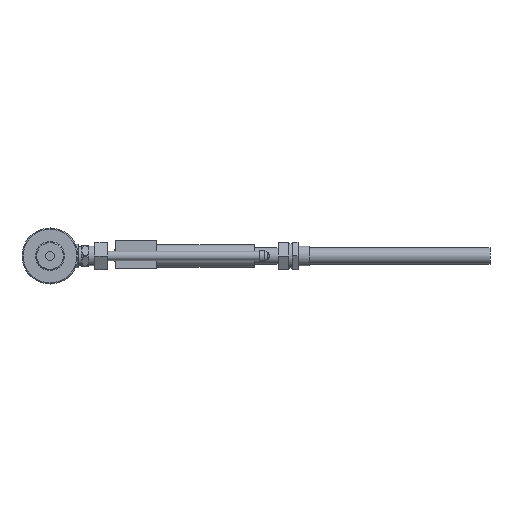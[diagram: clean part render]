
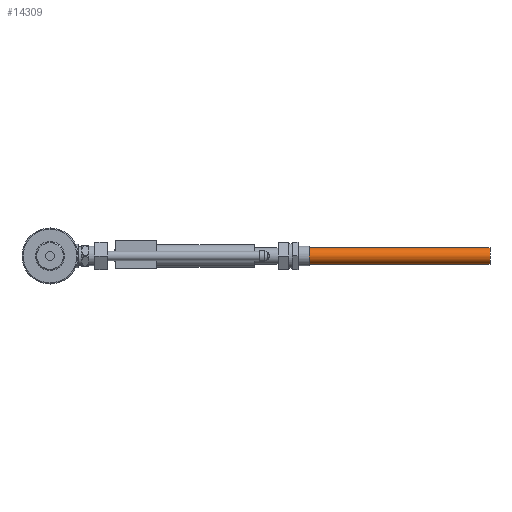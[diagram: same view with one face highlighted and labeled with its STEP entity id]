
A CAD part, left-side view. The second image highlights one B-rep face of the part: STEP entity #14309.
In plain terms, the highlighted cylindrical face has radius 14 mm (diameter 28 mm), a partial arc.
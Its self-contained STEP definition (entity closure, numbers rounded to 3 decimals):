
#7976 = VERTEX_POINT ( 'NONE', #10147 ) ;
#7977 = VERTEX_POINT ( 'NONE', #10146 ) ;
#7979 = EDGE_CURVE ( 'NONE', #7977, #7980, #10145, .T. ) ;
#7980 = VERTEX_POINT ( 'NONE', #10141 ) ;
#7983 = VERTEX_POINT ( 'NONE', #10135 ) ;
#7985 = EDGE_CURVE ( 'NONE', #7976, #7983, #10134, .T. ) ;
#8929 = DIRECTION ( 'NONE',  ( 0., 0., -1. ) ) ;
#8930 = DIRECTION ( 'NONE',  ( 0., -1., 0. ) ) ;
#8931 = CARTESIAN_POINT ( 'NONE',  ( 432.383, -391.1, 0. ) ) ;
#8932 = AXIS2_PLACEMENT_3D ( 'NONE', #8931, #8930, #8929 ) ;
#8933 = CIRCLE ( 'NONE', #8932, 14. ) ;
#8974 = DIRECTION ( 'NONE',  ( 0., 0., 1. ) ) ;
#8975 = DIRECTION ( 'NONE',  ( 0., 1., 0. ) ) ;
#8976 = CARTESIAN_POINT ( 'NONE',  ( 432.383, -279.438, 0. ) ) ;
#8977 = AXIS2_PLACEMENT_3D ( 'NONE', #8976, #8975, #8974 ) ;
#8979 = CYLINDRICAL_SURFACE ( 'NONE', #8977, 14. ) ;
#8980 = FACE_OUTER_BOUND ( 'NONE', #14310, .T. ) ;
#8981 = DIRECTION ( 'NONE',  ( 0., 0., 1. ) ) ;
#8982 = DIRECTION ( 'NONE',  ( 0., 1., 0. ) ) ;
#8983 = CARTESIAN_POINT ( 'NONE',  ( 432.383, -697.1, 0. ) ) ;
#8984 = AXIS2_PLACEMENT_3D ( 'NONE', #8983, #8982, #8981 ) ;
#8985 = CIRCLE ( 'NONE', #8984, 14. ) ;
#10131 = DIRECTION ( 'NONE',  ( 0., 1., 0. ) ) ;
#10132 = VECTOR ( 'NONE', #10131, 1000. ) ;
#10133 = CARTESIAN_POINT ( 'NONE',  ( 432.383, -279.438, 14. ) ) ;
#10134 = LINE ( 'NONE', #10133, #10132 ) ;
#10135 = CARTESIAN_POINT ( 'NONE',  ( 432.383, -391.1, 14. ) ) ;
#10141 = CARTESIAN_POINT ( 'NONE',  ( 432.383, -391.1, -14. ) ) ;
#10142 = DIRECTION ( 'NONE',  ( 0., 1., 0. ) ) ;
#10143 = VECTOR ( 'NONE', #10142, 1000. ) ;
#10144 = CARTESIAN_POINT ( 'NONE',  ( 432.383, -279.438, -14. ) ) ;
#10145 = LINE ( 'NONE', #10144, #10143 ) ;
#10146 = CARTESIAN_POINT ( 'NONE',  ( 432.383, -697.1, -14. ) ) ;
#10147 = CARTESIAN_POINT ( 'NONE',  ( 432.383, -697.1, 14. ) ) ;
#14301 = EDGE_CURVE ( 'NONE', #7983, #7980, #8933, .T. ) ;
#14304 = ORIENTED_EDGE ( 'NONE', *, *, #14301, .T. ) ;
#14305 = ORIENTED_EDGE ( 'NONE', *, *, #7985, .T. ) ;
#14306 = ORIENTED_EDGE ( 'NONE', *, *, #14308, .T. ) ;
#14307 = ORIENTED_EDGE ( 'NONE', *, *, #7979, .F. ) ;
#14308 = EDGE_CURVE ( 'NONE', #7977, #7976, #8985, .T. ) ;
#14309 = ADVANCED_FACE ( 'NONE', ( #8980 ), #8979, .T. ) ;
#14310 = EDGE_LOOP ( 'NONE', ( #14307, #14306, #14305, #14304 ) ) ;
